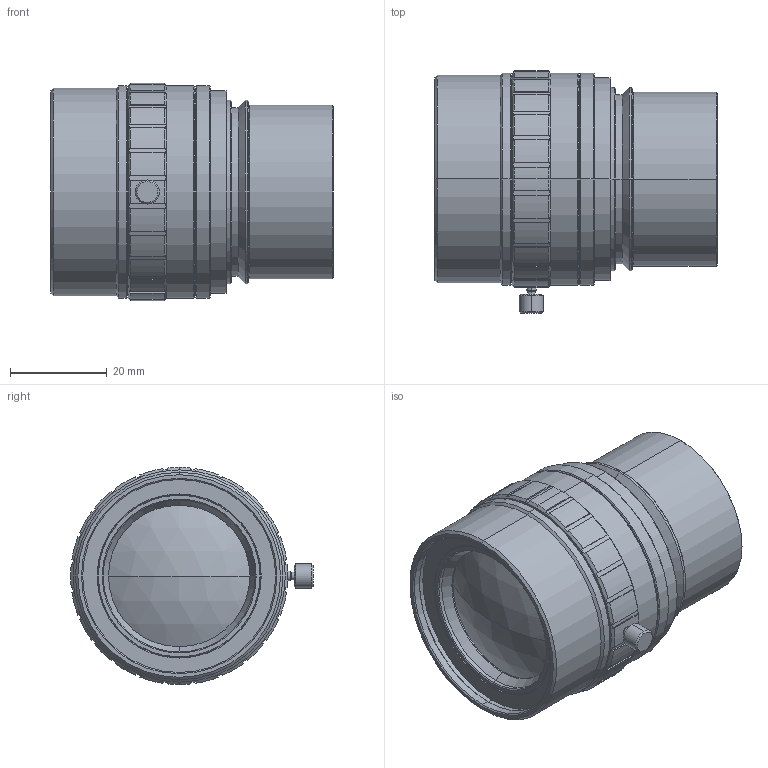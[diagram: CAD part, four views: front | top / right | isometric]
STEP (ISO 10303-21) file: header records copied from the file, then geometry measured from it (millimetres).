
FILE_DESCRIPTION (( 'STEP AP203' ), '1' );
FILE_NAME ('VS-L12056-1_V.STEP', '2014-11-06T04:03:45', ( 'miura_vst' ), ( '' ), 'SwSTEP 2.0', 'SolidWorks 2014', '' );
FILE_SCHEMA (( 'CONFIG_CONTROL_DESIGN' ));
Length unit declared in the file: millimetre
Products named in the file (1): VS-L12056-1_V
Bounding box: 58.5 x 50.29 x 45 mm (x, y, z)
Volume: 69507.6 mm3; surface area: 12558.7 mm2
Topology: 1 solids, 1 shells, 220 faces, 539 edges, 336 vertices
Faces by surface type: plane 87, cone 66, cylinder 63, sphere 4
Entity records: 6684 total; most frequent: CARTESIAN_POINT 1560, ORIENTED_EDGE 1078, DIRECTION 1027, EDGE_CURVE 539, AXIS2_PLACEMENT_3D 413, VERTEX_POINT 336, EDGE_LOOP 235, FACE_OUTER_BOUND 220
